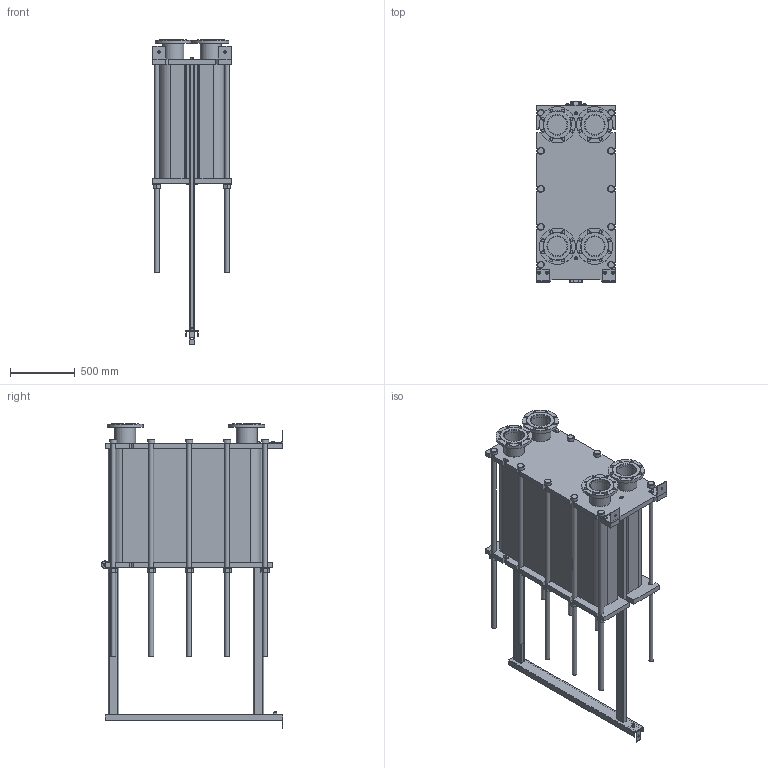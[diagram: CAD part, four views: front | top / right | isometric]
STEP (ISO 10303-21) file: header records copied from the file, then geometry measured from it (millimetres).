
FILE_DESCRIPTION(/* description */ (''),/* implementation_level */ '2;1');
FILE_NAME(/* name */ 'C:\Users\zhuro\Desktop\ENCO\TO\ЭН-041\ЭН-0,5-041-256-1.stp',/* time_stamp */ '2022-06-06T11:10:22+03:00',/* author */ ('zhuro'),/* organization */ (''),/* preprocessor_version */ 'ST-DEVELOPER v18.1',/* originating_system */ 'Autodesk Inventor 2022',/* authorisation */ '');
FILE_SCHEMA (('AUTOMOTIVE_DESIGN { 1 0 10303 214 3 1 1 }'));
Length unit declared in the file: millimetre
Products named in the file (1): ЭН-0,5-041-256-1
Bounding box: 610 x 1406.5 x 2360 mm (x, y, z)
Volume: 588180275.7 mm3; surface area: 12464183.2 mm2
Topology: 52 solids, 52 shells, 711 faces, 1696 edges, 1094 vertices
Faces by surface type: plane 487, cylinder 177, cone 41, torus 6
Full cylindrical faces by diameter (mm): 8 x4, 10 x2, 16 x8, 18 x3, 22 x32, 36 x24, 50 x1, 54 x10, 60 x12, 151 x4, 161 x8, 280 x4
Entity records: 22667 total; most frequent: CARTESIAN_POINT 5230, DIRECTION 3644, ORIENTED_EDGE 3392, EDGE_CURVE 1696, AXIS2_PLACEMENT_3D 1272, LINE 1100, VECTOR 1100, VERTEX_POINT 1094
